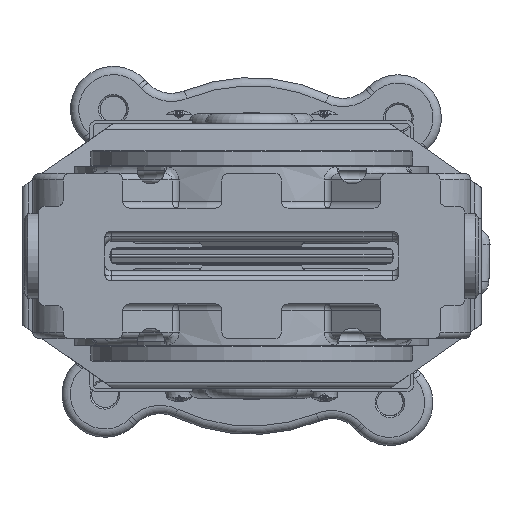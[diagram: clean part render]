
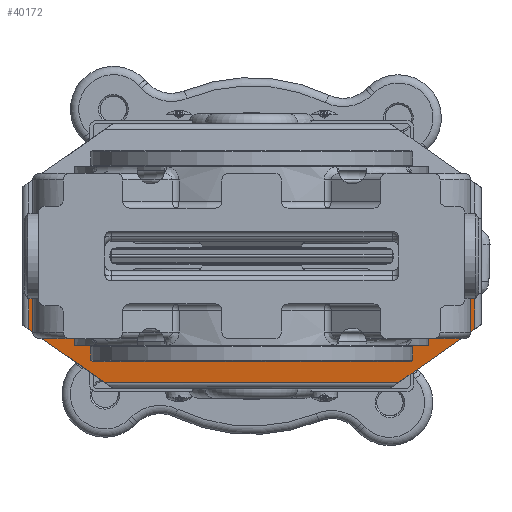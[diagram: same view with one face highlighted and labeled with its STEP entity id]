
A CAD part, front view. The second image highlights one B-rep face of the part: STEP entity #40172.
In plain terms, the highlighted planar face has unit normal (0, -0.995, -0.104).
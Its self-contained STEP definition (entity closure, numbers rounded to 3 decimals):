
#879=ELLIPSE('',#42751,5.028,5.);
#880=ELLIPSE('',#42752,25.138,25.);
#881=ELLIPSE('',#42753,9.05,9.);
#882=ELLIPSE('',#42754,25.138,25.);
#883=ELLIPSE('',#42755,25.138,25.);
#884=ELLIPSE('',#42756,9.05,9.);
#885=ELLIPSE('',#42757,25.138,25.);
#886=ELLIPSE('',#42758,5.028,5.);
#887=ELLIPSE('',#42759,5.028,5.);
#888=ELLIPSE('',#42760,5.028,5.);
#1853=PLANE('',#42750);
#2746=FACE_OUTER_BOUND('',#5288,.T.);
#5288=EDGE_LOOP('',(#26576,#26577,#26578,#26579,#26580,#26581,#26582,#26583,
#26584,#26585,#26586,#26587,#26588,#26589,#26590,#26591,#26592,#26593,#26594,
#26595,#26596,#26597));
#8090=B_SPLINE_CURVE_WITH_KNOTS('',3,(#61437,#61438,#61439,#61440),
 .UNSPECIFIED.,.F.,.F.,(4,4),(0.,0.),.UNSPECIFIED.);
#8091=B_SPLINE_CURVE_WITH_KNOTS('',3,(#61456,#61457,#61458,#61459),
 .UNSPECIFIED.,.F.,.F.,(4,4),(0.,0.),.UNSPECIFIED.);
#8867=LINE('',#61429,#10999);
#8868=LINE('',#61442,#11000);
#8869=LINE('',#61444,#11001);
#8870=LINE('',#61446,#11002);
#8871=LINE('',#61448,#11003);
#8872=LINE('',#61450,#11004);
#8873=LINE('',#61452,#11005);
#8874=LINE('',#61454,#11006);
#8875=LINE('',#61467,#11007);
#8876=LINE('',#61473,#11008);
#10999=VECTOR('',#48273,1000.);
#11000=VECTOR('',#48280,1000.);
#11001=VECTOR('',#48281,1000.);
#11002=VECTOR('',#48282,1000.);
#11003=VECTOR('',#48283,1000.);
#11004=VECTOR('',#48284,1000.);
#11005=VECTOR('',#48285,1000.);
#11006=VECTOR('',#48286,1000.);
#11007=VECTOR('',#48293,1000.);
#11008=VECTOR('',#48298,1000.);
#16047=VERTEX_POINT('',#61425);
#16048=VERTEX_POINT('',#61426);
#16049=VERTEX_POINT('',#61428);
#16050=VERTEX_POINT('',#61430);
#16051=VERTEX_POINT('',#61432);
#16052=VERTEX_POINT('',#61434);
#16053=VERTEX_POINT('',#61436);
#16054=VERTEX_POINT('',#61441);
#16055=VERTEX_POINT('',#61443);
#16056=VERTEX_POINT('',#61445);
#16057=VERTEX_POINT('',#61447);
#16058=VERTEX_POINT('',#61449);
#16059=VERTEX_POINT('',#61451);
#16060=VERTEX_POINT('',#61453);
#16061=VERTEX_POINT('',#61455);
#16062=VERTEX_POINT('',#61460);
#16063=VERTEX_POINT('',#61462);
#16064=VERTEX_POINT('',#61464);
#16065=VERTEX_POINT('',#61466);
#16066=VERTEX_POINT('',#61468);
#16067=VERTEX_POINT('',#61470);
#16068=VERTEX_POINT('',#61472);
#20121=EDGE_CURVE('',#16047,#16048,#879,.T.);
#20122=EDGE_CURVE('',#16047,#16049,#8867,.T.);
#20123=EDGE_CURVE('',#16049,#16050,#880,.F.);
#20124=EDGE_CURVE('',#16050,#16051,#881,.F.);
#20125=EDGE_CURVE('',#16051,#16052,#882,.F.);
#20126=EDGE_CURVE('',#16052,#16053,#8090,.T.);
#20127=EDGE_CURVE('',#16053,#16054,#8868,.T.);
#20128=EDGE_CURVE('',#16054,#16055,#8869,.T.);
#20129=EDGE_CURVE('',#16055,#16056,#8870,.T.);
#20130=EDGE_CURVE('',#16056,#16057,#8871,.F.);
#20131=EDGE_CURVE('',#16057,#16058,#8872,.T.);
#20132=EDGE_CURVE('',#16058,#16059,#8873,.F.);
#20133=EDGE_CURVE('',#16059,#16060,#8874,.T.);
#20134=EDGE_CURVE('',#16060,#16061,#8091,.T.);
#20135=EDGE_CURVE('',#16061,#16062,#883,.F.);
#20136=EDGE_CURVE('',#16062,#16063,#884,.F.);
#20137=EDGE_CURVE('',#16063,#16064,#885,.F.);
#20138=EDGE_CURVE('',#16064,#16065,#8875,.T.);
#20139=EDGE_CURVE('',#16066,#16065,#886,.T.);
#20140=EDGE_CURVE('',#16067,#16066,#887,.T.);
#20141=EDGE_CURVE('',#16067,#16068,#8876,.T.);
#20142=EDGE_CURVE('',#16048,#16068,#888,.T.);
#26576=ORIENTED_EDGE('',*,*,#20121,.F.);
#26577=ORIENTED_EDGE('',*,*,#20122,.T.);
#26578=ORIENTED_EDGE('',*,*,#20123,.T.);
#26579=ORIENTED_EDGE('',*,*,#20124,.T.);
#26580=ORIENTED_EDGE('',*,*,#20125,.T.);
#26581=ORIENTED_EDGE('',*,*,#20126,.T.);
#26582=ORIENTED_EDGE('',*,*,#20127,.T.);
#26583=ORIENTED_EDGE('',*,*,#20128,.T.);
#26584=ORIENTED_EDGE('',*,*,#20129,.T.);
#26585=ORIENTED_EDGE('',*,*,#20130,.T.);
#26586=ORIENTED_EDGE('',*,*,#20131,.T.);
#26587=ORIENTED_EDGE('',*,*,#20132,.T.);
#26588=ORIENTED_EDGE('',*,*,#20133,.T.);
#26589=ORIENTED_EDGE('',*,*,#20134,.T.);
#26590=ORIENTED_EDGE('',*,*,#20135,.T.);
#26591=ORIENTED_EDGE('',*,*,#20136,.T.);
#26592=ORIENTED_EDGE('',*,*,#20137,.T.);
#26593=ORIENTED_EDGE('',*,*,#20138,.T.);
#26594=ORIENTED_EDGE('',*,*,#20139,.F.);
#26595=ORIENTED_EDGE('',*,*,#20140,.F.);
#26596=ORIENTED_EDGE('',*,*,#20141,.T.);
#26597=ORIENTED_EDGE('',*,*,#20142,.F.);
#40172=ADVANCED_FACE('',(#2746),#1853,.T.);
#42750=AXIS2_PLACEMENT_3D('',#61424,#48269,#48270);
#42751=AXIS2_PLACEMENT_3D('',#61427,#48271,#48272);
#42752=AXIS2_PLACEMENT_3D('',#61431,#48274,#48275);
#42753=AXIS2_PLACEMENT_3D('',#61433,#48276,#48277);
#42754=AXIS2_PLACEMENT_3D('',#61435,#48278,#48279);
#42755=AXIS2_PLACEMENT_3D('',#61461,#48287,#48288);
#42756=AXIS2_PLACEMENT_3D('',#61463,#48289,#48290);
#42757=AXIS2_PLACEMENT_3D('',#61465,#48291,#48292);
#42758=AXIS2_PLACEMENT_3D('',#61469,#48294,#48295);
#42759=AXIS2_PLACEMENT_3D('',#61471,#48296,#48297);
#42760=AXIS2_PLACEMENT_3D('',#61474,#48299,#48300);
#48269=DIRECTION('center_axis',(0.,-0.995,
-0.105));
#48270=DIRECTION('ref_axis',(0.,-0.105,0.995));
#48271=DIRECTION('center_axis',(0.,-0.995,
-0.105));
#48272=DIRECTION('ref_axis',(0.,-0.105,0.995));
#48273=DIRECTION('',(-1.,0.,0.));
#48274=DIRECTION('center_axis',(0.,-0.995,
-0.105));
#48275=DIRECTION('ref_axis',(0.,-0.105,0.995));
#48276=DIRECTION('center_axis',(0.,-0.995,
-0.105));
#48277=DIRECTION('ref_axis',(0.,-0.105,0.995));
#48278=DIRECTION('center_axis',(0.,-0.995,
-0.105));
#48279=DIRECTION('ref_axis',(0.,-0.105,0.995));
#48280=DIRECTION('',(-1.,0.,0.));
#48281=DIRECTION('',(0.,0.105,-0.995));
#48282=DIRECTION('',(0.818,0.06,-0.573));
#48283=DIRECTION('',(-1.,0.,0.));
#48284=DIRECTION('',(0.818,-0.06,0.573));
#48285=DIRECTION('',(0.,0.105,-0.995));
#48286=DIRECTION('',(-1.,0.,0.));
#48287=DIRECTION('center_axis',(0.,-0.995,
-0.105));
#48288=DIRECTION('ref_axis',(0.,-0.105,0.995));
#48289=DIRECTION('center_axis',(0.,-0.995,
-0.105));
#48290=DIRECTION('ref_axis',(0.,-0.105,0.995));
#48291=DIRECTION('center_axis',(0.,-0.995,
-0.105));
#48292=DIRECTION('ref_axis',(0.,-0.105,0.995));
#48293=DIRECTION('',(-1.,0.,0.));
#48294=DIRECTION('center_axis',(0.,-0.995,
-0.105));
#48295=DIRECTION('ref_axis',(0.,-0.105,0.995));
#48296=DIRECTION('center_axis',(0.,-0.995,
-0.105));
#48297=DIRECTION('ref_axis',(0.,-0.105,0.995));
#48298=DIRECTION('',(-1.,0.,0.));
#48299=DIRECTION('center_axis',(0.,-0.995,
-0.105));
#48300=DIRECTION('ref_axis',(0.,-0.105,0.995));
#61424=CARTESIAN_POINT('Origin',(69.5,107.5,-11.457));
#61425=CARTESIAN_POINT('',(-35.481,108.982,-25.559));
#61426=CARTESIAN_POINT('',(-34.947,109.269,-28.286));
#61427=CARTESIAN_POINT('Origin',(-30.5,109.029,-26.));
#61428=CARTESIAN_POINT('',(-41.5,108.982,-25.559));
#61429=CARTESIAN_POINT('',(69.5,108.982,-25.559));
#61430=CARTESIAN_POINT('',(-51.663,108.755,-23.4));
#61431=CARTESIAN_POINT('Origin',(-41.5,106.355,-0.559));
#61432=CARTESIAN_POINT('',(-61.992,107.86,-14.88));
#61433=CARTESIAN_POINT('Origin',(-53.,107.82,-14.5));
#61434=CARTESIAN_POINT('',(-64.039,107.491,-11.375));
#61435=CARTESIAN_POINT('Origin',(-41.5,106.355,-0.559));
#61436=CARTESIAN_POINT('',(-64.432,107.5,-11.457));
#61437=CARTESIAN_POINT('Ctrl Pts',(-64.039,107.491,-11.375));
#61438=CARTESIAN_POINT('Ctrl Pts',(-64.163,107.497,-11.432));
#61439=CARTESIAN_POINT('Ctrl Pts',(-64.296,107.5,-11.457));
#61440=CARTESIAN_POINT('Ctrl Pts',(-64.432,107.5,-11.457));
#61441=CARTESIAN_POINT('',(-67.5,107.5,-11.457));
#61442=CARTESIAN_POINT('',(69.5,107.5,-11.457));
#61443=CARTESIAN_POINT('',(-67.5,108.623,-22.145));
#61444=CARTESIAN_POINT('',(-67.5,108.476,-20.744));
#61445=CARTESIAN_POINT('',(-44.558,110.312,-38.209));
#61446=CARTESIAN_POINT('',(19.037,114.992,-82.738));
#61447=CARTESIAN_POINT('',(44.558,110.312,-38.209));
#61448=CARTESIAN_POINT('',(69.5,110.312,-38.209));
#61449=CARTESIAN_POINT('',(67.5,108.623,-22.145));
#61450=CARTESIAN_POINT('',(73.896,108.153,-17.666));
#61451=CARTESIAN_POINT('',(67.5,107.5,-11.457));
#61452=CARTESIAN_POINT('',(67.5,107.5,-11.457));
#61453=CARTESIAN_POINT('',(64.432,107.5,-11.457));
#61454=CARTESIAN_POINT('',(69.5,107.5,-11.457));
#61455=CARTESIAN_POINT('',(64.039,107.491,-11.375));
#61456=CARTESIAN_POINT('Ctrl Pts',(64.432,107.5,-11.457));
#61457=CARTESIAN_POINT('Ctrl Pts',(64.296,107.5,-11.457));
#61458=CARTESIAN_POINT('Ctrl Pts',(64.163,107.497,-11.432));
#61459=CARTESIAN_POINT('Ctrl Pts',(64.039,107.491,-11.375));
#61460=CARTESIAN_POINT('',(61.992,107.86,-14.88));
#61461=CARTESIAN_POINT('Origin',(41.5,106.355,-0.559));
#61462=CARTESIAN_POINT('',(51.663,108.755,-23.4));
#61463=CARTESIAN_POINT('Origin',(53.,107.82,-14.5));
#61464=CARTESIAN_POINT('',(41.5,108.982,-25.559));
#61465=CARTESIAN_POINT('Origin',(41.5,106.355,-0.559));
#61466=CARTESIAN_POINT('',(35.481,108.982,-25.559));
#61467=CARTESIAN_POINT('',(69.5,108.982,-25.559));
#61468=CARTESIAN_POINT('',(26.053,109.269,-28.286));
#61469=CARTESIAN_POINT('Origin',(30.5,109.029,-26.));
#61470=CARTESIAN_POINT('',(25.519,108.982,-25.559));
#61471=CARTESIAN_POINT('Origin',(30.5,109.029,-26.));
#61472=CARTESIAN_POINT('',(-25.519,108.982,-25.559));
#61473=CARTESIAN_POINT('',(69.5,108.982,-25.559));
#61474=CARTESIAN_POINT('Origin',(-30.5,109.029,-26.));
